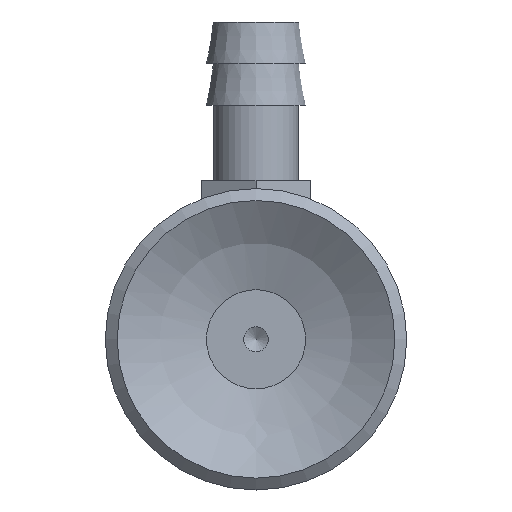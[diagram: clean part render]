
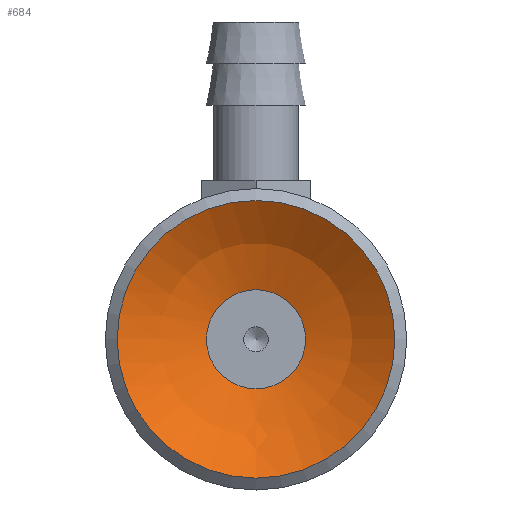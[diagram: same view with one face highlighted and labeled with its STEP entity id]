
A CAD part, front view. The second image highlights one B-rep face of the part: STEP entity #684.
In plain terms, the highlighted spherical face has radius 11.5 mm.
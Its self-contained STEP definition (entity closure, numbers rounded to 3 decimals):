
#684=ADVANCED_FACE('',(#1154,#1155),#1156,.F.);
#1154=FACE_OUTER_BOUND('',#1720,.T.);
#1155=FACE_OUTER_BOUND('',#1721,.T.);
#1156=SPHERICAL_SURFACE('',#1722,11.5);
#1720=EDGE_LOOP('',(#3042));
#1721=EDGE_LOOP('',(#3043));
#1722=AXIS2_PLACEMENT_3D('',#3044,#3045,#3046);
#3042=ORIENTED_EDGE('',*,*,#3834,.T.);
#3043=ORIENTED_EDGE('',*,*,#3835,.F.);
#3044=CARTESIAN_POINT('',(0.001,9.494,-22.735));
#3045=DIRECTION('',(0.0,0.,-1.0));
#3046=DIRECTION('',(1.0,0.0,0.0));
#3834=EDGE_CURVE('',#4549,#4549,#4550,.T.);
#3835=EDGE_CURVE('',#4551,#4551,#4552,.T.);
#4549=VERTEX_POINT('',#6354);
#4550=CIRCLE('',#6355,7.0);
#4551=VERTEX_POINT('',#6356);
#4552=CIRCLE('',#6357,2.5);
#6354=CARTESIAN_POINT('',(0.001,16.494,-13.611));
#6355=AXIS2_PLACEMENT_3D('',#7135,#7136,#7137);
#6356=CARTESIAN_POINT('',(0.001,11.994,-11.51));
#6357=AXIS2_PLACEMENT_3D('',#7138,#7139,#7140);
#7135=CARTESIAN_POINT('',(0.001,9.494,-13.611));
#7136=DIRECTION('',(0.0,0.,-1.0));
#7137=DIRECTION('',(0.0,1.0,0.));
#7138=CARTESIAN_POINT('',(0.001,9.494,-11.51));
#7139=DIRECTION('',(0.0,0.,-1.0));
#7140=DIRECTION('',(0.0,1.0,0.));
